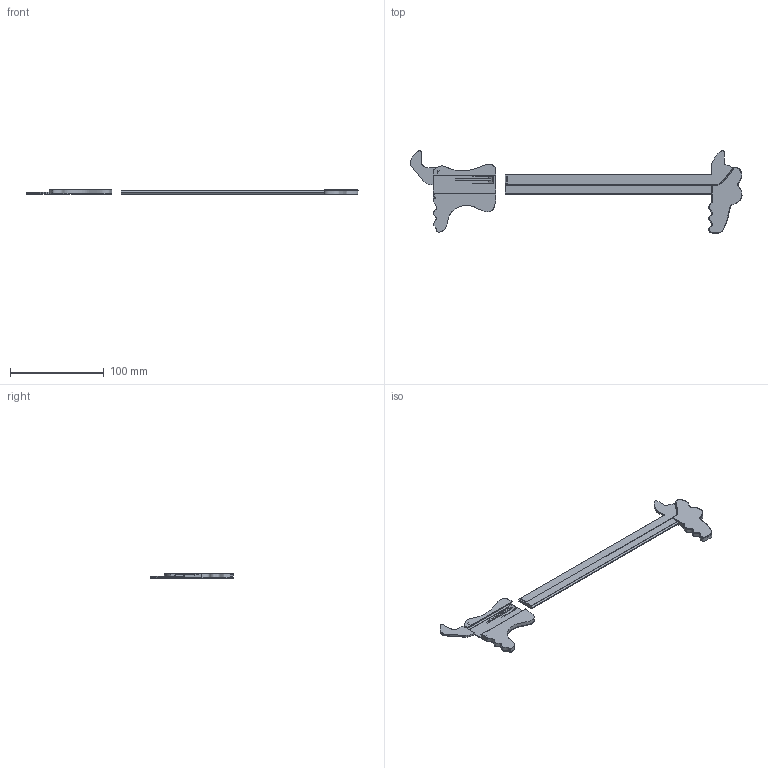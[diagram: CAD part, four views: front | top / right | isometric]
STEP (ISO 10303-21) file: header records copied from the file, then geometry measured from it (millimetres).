
FILE_DESCRIPTION(/* description */ (''),/* implementation_level */ '2;1');
FILE_NAME(/* name */ 'croc-calipers-metric-step.step',/* time_stamp */ '2025-11-22T07:14:54-07:00',/* author */ (''),/* organization */ (''),/* preprocessor_version */ 'ST-DEVELOPER v20.1',/* originating_system */ 'Autodesk Translation Framework v14.21.0.0',/* authorisation */ '');
FILE_SCHEMA (('AUTOMOTIVE_DESIGN { 1 0 10303 214 3 1 1 }'));
Products named in the file (1): croc-calipers-metric
Bounding box: 353.24 x 87.82 x 5 mm (x, y, z)
Volume: 36314.2 mm3; surface area: 28916.1 mm2
Topology: 70 solids, 70 shells, 6143 faces, 17668 edges, 11760 vertices
Faces by surface type: plane 3753, bspline 2322, cylinder 61, torus 7
Full cylindrical faces by diameter (mm): 1 x12
Entity records: 224015 total; most frequent: CARTESIAN_POINT 78759, ORIENTED_EDGE 35336, DIRECTION 20826, EDGE_CURVE 17668, LINE 12902, VECTOR 12902, VERTEX_POINT 11760, EDGE_LOOP 6310
